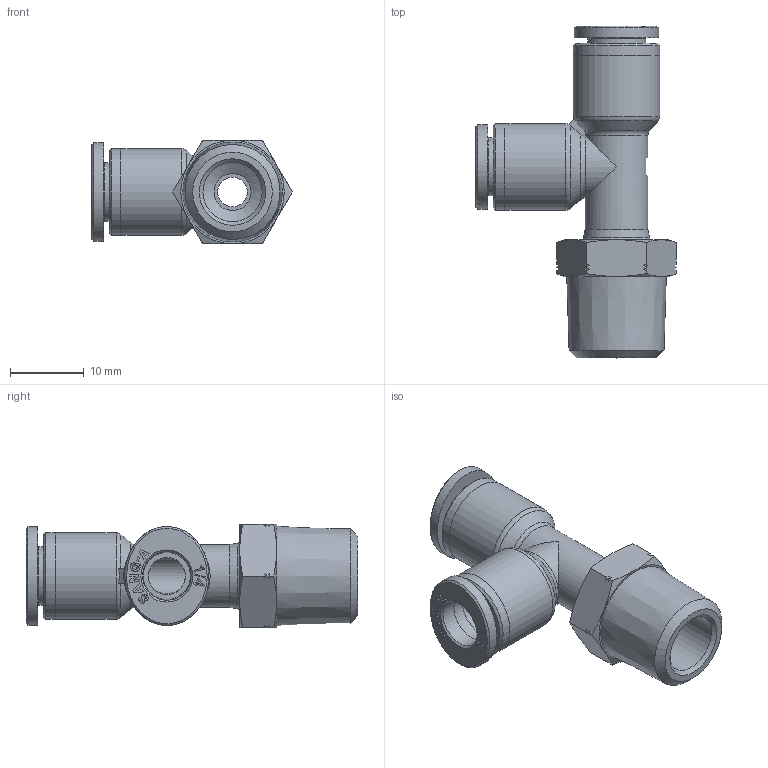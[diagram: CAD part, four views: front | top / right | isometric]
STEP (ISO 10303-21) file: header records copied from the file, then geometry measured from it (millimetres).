
FILE_DESCRIPTION((''),'2;1');
FILE_NAME('C:\Users\user0117\Desktop\김진일\G-FITTING INCH\1-4\G-FITTING INCH (STEP)\GPST 1_4-R02.stp','2020-04-23T09:08:08',('user0117'),(''),'Autodesk Inventor 2013','Autodesk Inventor 2013','');
FILE_SCHEMA(('AUTOMOTIVE_DESIGN { 1 0 10303 214 1 1 1 1 }'));
Length unit declared in the file: millimetre
Products named in the file (6): GPST 1_4-R02; GPL BODY 1-4 R02(BRASS); GPST BODY 1-4(PLASTIC); G-COLLAR G1-4L; COLLAR G1-4L; SLEEVE G1-4
Assembly tree (6 placements, depth 3):
  GPST 1_4-R02
    GPL BODY 1-4 R02(BRASS)
    GPST BODY 1-4(PLASTIC)
    G-COLLAR G1-4L  x2
      COLLAR G1-4L
      SLEEVE G1-4
Bounding box: 27.13 x 44.9 x 14 mm (x, y, z)
Volume: 4292.6 mm3; surface area: 4555.4 mm2
Topology: 6 solids, 6 shells, 346 faces, 885 edges, 583 vertices
Faces by surface type: plane 211, cone 51, bspline 44, cylinder 33, torus 5, sphere 2
Full cylindrical faces by diameter (mm): 4 x1, 5 x4, 6.55 x6, 7.85 x2, 8 x1, 8.5 x1, 11.7 x4
Entity records: 6807 total; most frequent: CARTESIAN_POINT 1771, ORIENTED_EDGE 1022, DIRECTION 959, EDGE_CURVE 511, VERTEX_POINT 351, AXIS2_PLACEMENT_3D 337, VECTOR 285, LINE 285
